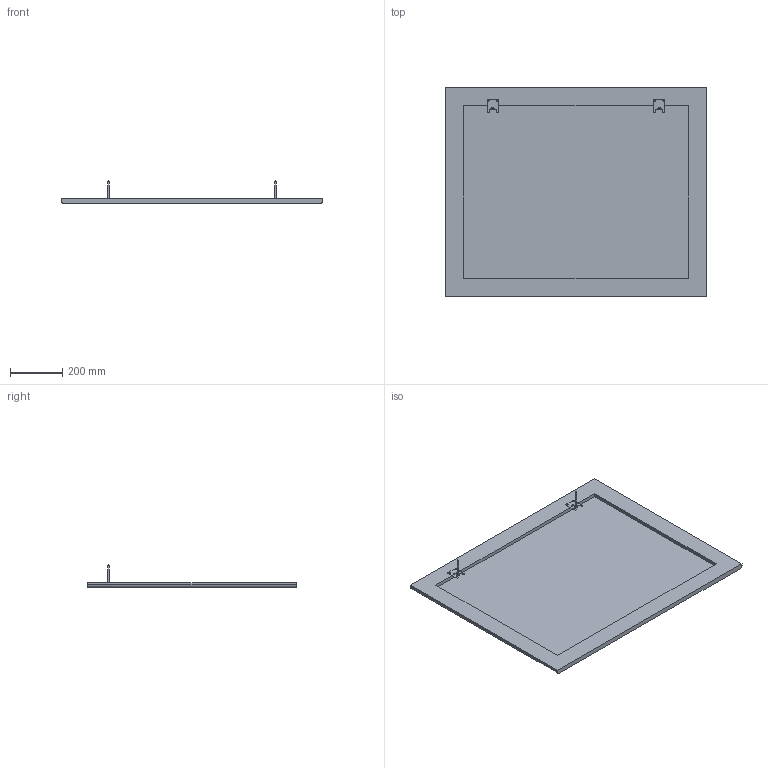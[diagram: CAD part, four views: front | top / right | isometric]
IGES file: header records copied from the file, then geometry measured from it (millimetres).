
Global section: file name: Noble Ayna 3D 100 cm; native system: Autodesk Inventor 2024; preprocessor: unknown; author: pc19; date: 20250611.094045; units: millimetre
Bounding box: 1000 x 800 x 88 mm (x, y, z)
Volume: 6407096 mm3; surface area: 2049130.1 mm2
Topology: 6 solids, 6 shells, 225 faces, 598 edges, 382 vertices
Faces by surface type: bspline 225
